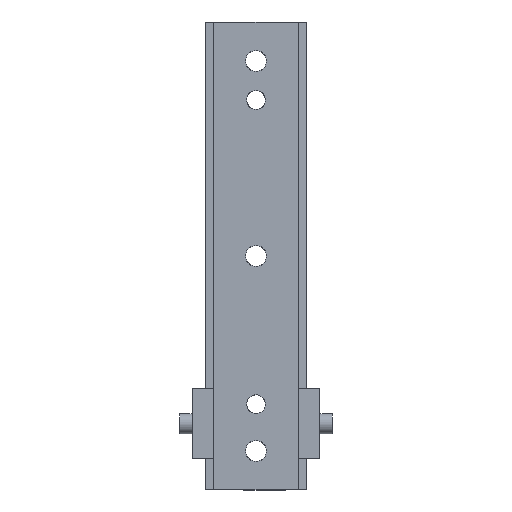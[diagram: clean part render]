
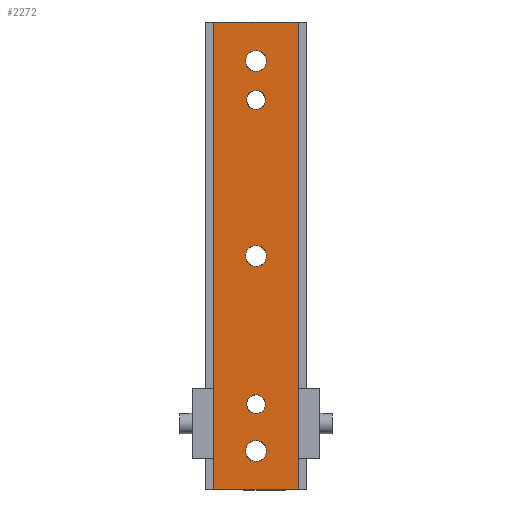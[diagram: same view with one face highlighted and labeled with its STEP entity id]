
A CAD part, front view. The second image highlights one B-rep face of the part: STEP entity #2272.
In plain terms, the highlighted planar face has unit normal (0, -1, 0).
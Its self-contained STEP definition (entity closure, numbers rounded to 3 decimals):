
#278=CARTESIAN_POINT('Vertex',(-4973.207,-575.36,0.)) ;
#281=CARTESIAN_POINT('Line Origine',(-5000.207,-575.36,0.)) ;
#285=CARTESIAN_POINT('Vertex',(-5027.207,-575.36,0.)) ;
#535=CARTESIAN_POINT('Vertex',(-5027.207,-575.36,300.)) ;
#538=CARTESIAN_POINT('Line Origine',(-5000.207,-575.36,300.)) ;
#542=CARTESIAN_POINT('Vertex',(-4973.207,-575.36,300.)) ;
#2065=CARTESIAN_POINT('Line Origine',(-4973.207,-575.36,150.)) ;
#2086=CARTESIAN_POINT('Axis2P3D Location',(-5027.207,-575.36,300.)) ;
#2091=CARTESIAN_POINT('Line Origine',(-5027.207,-575.36,150.)) ;
#2102=CARTESIAN_POINT('Axis2P3D Location',(-5000.207,-575.36,250.)) ;
#2106=CARTESIAN_POINT('Vertex',(-4994.207,-575.36,250.)) ;
#2108=CARTESIAN_POINT('Vertex',(-5000.207,-575.36,244.)) ;
#2111=CARTESIAN_POINT('Axis2P3D Location',(-5000.207,-575.36,250.)) ;
#2115=CARTESIAN_POINT('Vertex',(-5006.207,-575.36,250.)) ;
#2118=CARTESIAN_POINT('Axis2P3D Location',(-5000.207,-575.36,250.)) ;
#2122=CARTESIAN_POINT('Vertex',(-5000.207,-575.36,256.)) ;
#2125=CARTESIAN_POINT('Axis2P3D Location',(-5000.207,-575.36,250.)) ;
#2136=CARTESIAN_POINT('Axis2P3D Location',(-5000.207,-575.36,55.)) ;
#2140=CARTESIAN_POINT('Vertex',(-4994.207,-575.36,55.)) ;
#2142=CARTESIAN_POINT('Vertex',(-5000.207,-575.36,49.)) ;
#2145=CARTESIAN_POINT('Axis2P3D Location',(-5000.207,-575.36,55.)) ;
#2149=CARTESIAN_POINT('Vertex',(-5006.207,-575.36,55.)) ;
#2152=CARTESIAN_POINT('Axis2P3D Location',(-5000.207,-575.36,55.)) ;
#2156=CARTESIAN_POINT('Vertex',(-5000.207,-575.36,61.)) ;
#2159=CARTESIAN_POINT('Axis2P3D Location',(-5000.207,-575.36,55.)) ;
#2170=CARTESIAN_POINT('Axis2P3D Location',(-5000.207,-575.36,275.)) ;
#2174=CARTESIAN_POINT('Vertex',(-4993.457,-575.36,275.)) ;
#2176=CARTESIAN_POINT('Vertex',(-5000.207,-575.36,268.25)) ;
#2179=CARTESIAN_POINT('Axis2P3D Location',(-5000.207,-575.36,275.)) ;
#2183=CARTESIAN_POINT('Vertex',(-5006.957,-575.36,275.)) ;
#2186=CARTESIAN_POINT('Axis2P3D Location',(-5000.207,-575.36,275.)) ;
#2190=CARTESIAN_POINT('Vertex',(-5000.207,-575.36,281.75)) ;
#2193=CARTESIAN_POINT('Axis2P3D Location',(-5000.207,-575.36,275.)) ;
#2204=CARTESIAN_POINT('Axis2P3D Location',(-5000.207,-575.36,150.)) ;
#2208=CARTESIAN_POINT('Vertex',(-4993.457,-575.36,150.)) ;
#2210=CARTESIAN_POINT('Vertex',(-5000.207,-575.36,143.25)) ;
#2213=CARTESIAN_POINT('Axis2P3D Location',(-5000.207,-575.36,150.)) ;
#2217=CARTESIAN_POINT('Vertex',(-5006.957,-575.36,150.)) ;
#2220=CARTESIAN_POINT('Axis2P3D Location',(-5000.207,-575.36,150.)) ;
#2224=CARTESIAN_POINT('Vertex',(-5000.207,-575.36,156.75)) ;
#2227=CARTESIAN_POINT('Axis2P3D Location',(-5000.207,-575.36,150.)) ;
#2238=CARTESIAN_POINT('Axis2P3D Location',(-5000.207,-575.36,25.)) ;
#2242=CARTESIAN_POINT('Vertex',(-4993.457,-575.36,25.)) ;
#2244=CARTESIAN_POINT('Vertex',(-5000.207,-575.36,18.25)) ;
#2247=CARTESIAN_POINT('Axis2P3D Location',(-5000.207,-575.36,25.)) ;
#2251=CARTESIAN_POINT('Vertex',(-5006.957,-575.36,25.)) ;
#2254=CARTESIAN_POINT('Axis2P3D Location',(-5000.207,-575.36,25.)) ;
#2258=CARTESIAN_POINT('Vertex',(-5000.207,-575.36,31.75)) ;
#2261=CARTESIAN_POINT('Axis2P3D Location',(-5000.207,-575.36,25.)) ;
#282=DIRECTION('Vector Direction',(1.,0.,0.)) ;
#539=DIRECTION('Vector Direction',(1.,0.,0.)) ;
#2066=DIRECTION('Vector Direction',(0.,0.,-1.)) ;
#2087=DIRECTION('Axis2P3D Direction',(0.,1.,0.)) ;
#2088=DIRECTION('Axis2P3D XDirection',(0.,-0.,1.)) ;
#2092=DIRECTION('Vector Direction',(0.,0.,-1.)) ;
#2103=DIRECTION('Axis2P3D Direction',(0.,1.,0.)) ;
#2112=DIRECTION('Axis2P3D Direction',(0.,1.,0.)) ;
#2119=DIRECTION('Axis2P3D Direction',(0.,1.,0.)) ;
#2126=DIRECTION('Axis2P3D Direction',(0.,1.,0.)) ;
#2137=DIRECTION('Axis2P3D Direction',(0.,1.,0.)) ;
#2146=DIRECTION('Axis2P3D Direction',(0.,1.,0.)) ;
#2153=DIRECTION('Axis2P3D Direction',(0.,1.,0.)) ;
#2160=DIRECTION('Axis2P3D Direction',(0.,1.,0.)) ;
#2171=DIRECTION('Axis2P3D Direction',(0.,1.,0.)) ;
#2180=DIRECTION('Axis2P3D Direction',(0.,1.,0.)) ;
#2187=DIRECTION('Axis2P3D Direction',(0.,1.,0.)) ;
#2194=DIRECTION('Axis2P3D Direction',(0.,1.,0.)) ;
#2205=DIRECTION('Axis2P3D Direction',(0.,1.,0.)) ;
#2214=DIRECTION('Axis2P3D Direction',(0.,1.,0.)) ;
#2221=DIRECTION('Axis2P3D Direction',(0.,1.,0.)) ;
#2228=DIRECTION('Axis2P3D Direction',(0.,1.,0.)) ;
#2239=DIRECTION('Axis2P3D Direction',(0.,1.,0.)) ;
#2248=DIRECTION('Axis2P3D Direction',(0.,1.,0.)) ;
#2255=DIRECTION('Axis2P3D Direction',(0.,1.,0.)) ;
#2262=DIRECTION('Axis2P3D Direction',(0.,1.,0.)) ;
#2089=AXIS2_PLACEMENT_3D('Plane Axis2P3D',#2086,#2087,#2088) ;
#2104=AXIS2_PLACEMENT_3D('Circle Axis2P3D',#2102,#2103,$) ;
#2113=AXIS2_PLACEMENT_3D('Circle Axis2P3D',#2111,#2112,$) ;
#2120=AXIS2_PLACEMENT_3D('Circle Axis2P3D',#2118,#2119,$) ;
#2127=AXIS2_PLACEMENT_3D('Circle Axis2P3D',#2125,#2126,$) ;
#2138=AXIS2_PLACEMENT_3D('Circle Axis2P3D',#2136,#2137,$) ;
#2147=AXIS2_PLACEMENT_3D('Circle Axis2P3D',#2145,#2146,$) ;
#2154=AXIS2_PLACEMENT_3D('Circle Axis2P3D',#2152,#2153,$) ;
#2161=AXIS2_PLACEMENT_3D('Circle Axis2P3D',#2159,#2160,$) ;
#2172=AXIS2_PLACEMENT_3D('Circle Axis2P3D',#2170,#2171,$) ;
#2181=AXIS2_PLACEMENT_3D('Circle Axis2P3D',#2179,#2180,$) ;
#2188=AXIS2_PLACEMENT_3D('Circle Axis2P3D',#2186,#2187,$) ;
#2195=AXIS2_PLACEMENT_3D('Circle Axis2P3D',#2193,#2194,$) ;
#2206=AXIS2_PLACEMENT_3D('Circle Axis2P3D',#2204,#2205,$) ;
#2215=AXIS2_PLACEMENT_3D('Circle Axis2P3D',#2213,#2214,$) ;
#2222=AXIS2_PLACEMENT_3D('Circle Axis2P3D',#2220,#2221,$) ;
#2229=AXIS2_PLACEMENT_3D('Circle Axis2P3D',#2227,#2228,$) ;
#2240=AXIS2_PLACEMENT_3D('Circle Axis2P3D',#2238,#2239,$) ;
#2249=AXIS2_PLACEMENT_3D('Circle Axis2P3D',#2247,#2248,$) ;
#2256=AXIS2_PLACEMENT_3D('Circle Axis2P3D',#2254,#2255,$) ;
#2263=AXIS2_PLACEMENT_3D('Circle Axis2P3D',#2261,#2262,$) ;
#2097=ORIENTED_EDGE('',*,*,#287,.T.) ;
#2098=ORIENTED_EDGE('',*,*,#2069,.F.) ;
#2099=ORIENTED_EDGE('',*,*,#544,.F.) ;
#2100=ORIENTED_EDGE('',*,*,#2095,.T.) ;
#2131=ORIENTED_EDGE('',*,*,#2110,.T.) ;
#2132=ORIENTED_EDGE('',*,*,#2117,.T.) ;
#2133=ORIENTED_EDGE('',*,*,#2124,.T.) ;
#2134=ORIENTED_EDGE('',*,*,#2129,.T.) ;
#2165=ORIENTED_EDGE('',*,*,#2144,.T.) ;
#2166=ORIENTED_EDGE('',*,*,#2151,.T.) ;
#2167=ORIENTED_EDGE('',*,*,#2158,.T.) ;
#2168=ORIENTED_EDGE('',*,*,#2163,.T.) ;
#2199=ORIENTED_EDGE('',*,*,#2178,.T.) ;
#2200=ORIENTED_EDGE('',*,*,#2185,.T.) ;
#2201=ORIENTED_EDGE('',*,*,#2192,.T.) ;
#2202=ORIENTED_EDGE('',*,*,#2197,.T.) ;
#2233=ORIENTED_EDGE('',*,*,#2212,.T.) ;
#2234=ORIENTED_EDGE('',*,*,#2219,.T.) ;
#2235=ORIENTED_EDGE('',*,*,#2226,.T.) ;
#2236=ORIENTED_EDGE('',*,*,#2231,.T.) ;
#2267=ORIENTED_EDGE('',*,*,#2246,.T.) ;
#2268=ORIENTED_EDGE('',*,*,#2253,.T.) ;
#2269=ORIENTED_EDGE('',*,*,#2260,.T.) ;
#2270=ORIENTED_EDGE('',*,*,#2265,.T.) ;
#2135=FACE_BOUND('',#2130,.T.) ;
#2169=FACE_BOUND('',#2164,.T.) ;
#2203=FACE_BOUND('',#2198,.T.) ;
#2237=FACE_BOUND('',#2232,.T.) ;
#2271=FACE_BOUND('',#2266,.T.) ;
#283=VECTOR('Line Direction',#282,1.) ;
#540=VECTOR('Line Direction',#539,1.) ;
#2067=VECTOR('Line Direction',#2066,1.) ;
#2093=VECTOR('Line Direction',#2092,1.) ;
#2272=ADVANCED_FACE('A945-01-630-01-S-BC',(#2101,#2135,#2169,#2203,#2237,#2271),#2090,.F.) ;
#2105=CIRCLE('generated circle',#2104,6.) ;
#2114=CIRCLE('generated circle',#2113,6.) ;
#2121=CIRCLE('generated circle',#2120,6.) ;
#2128=CIRCLE('generated circle',#2127,6.) ;
#2139=CIRCLE('generated circle',#2138,6.) ;
#2148=CIRCLE('generated circle',#2147,6.) ;
#2155=CIRCLE('generated circle',#2154,6.) ;
#2162=CIRCLE('generated circle',#2161,6.) ;
#2173=CIRCLE('generated circle',#2172,6.75) ;
#2182=CIRCLE('generated circle',#2181,6.75) ;
#2189=CIRCLE('generated circle',#2188,6.75) ;
#2196=CIRCLE('generated circle',#2195,6.75) ;
#2207=CIRCLE('generated circle',#2206,6.75) ;
#2216=CIRCLE('generated circle',#2215,6.75) ;
#2223=CIRCLE('generated circle',#2222,6.75) ;
#2230=CIRCLE('generated circle',#2229,6.75) ;
#2241=CIRCLE('generated circle',#2240,6.75) ;
#2250=CIRCLE('generated circle',#2249,6.75) ;
#2257=CIRCLE('generated circle',#2256,6.75) ;
#2264=CIRCLE('generated circle',#2263,6.75) ;
#287=EDGE_CURVE('',#286,#279,#284,.T.) ;
#544=EDGE_CURVE('',#536,#543,#541,.T.) ;
#2069=EDGE_CURVE('',#543,#279,#2068,.T.) ;
#2095=EDGE_CURVE('',#536,#286,#2094,.T.) ;
#2110=EDGE_CURVE('',#2107,#2109,#2105,.T.) ;
#2117=EDGE_CURVE('',#2109,#2116,#2114,.T.) ;
#2124=EDGE_CURVE('',#2116,#2123,#2121,.T.) ;
#2129=EDGE_CURVE('',#2123,#2107,#2128,.T.) ;
#2144=EDGE_CURVE('',#2141,#2143,#2139,.T.) ;
#2151=EDGE_CURVE('',#2143,#2150,#2148,.T.) ;
#2158=EDGE_CURVE('',#2150,#2157,#2155,.T.) ;
#2163=EDGE_CURVE('',#2157,#2141,#2162,.T.) ;
#2178=EDGE_CURVE('',#2175,#2177,#2173,.T.) ;
#2185=EDGE_CURVE('',#2177,#2184,#2182,.T.) ;
#2192=EDGE_CURVE('',#2184,#2191,#2189,.T.) ;
#2197=EDGE_CURVE('',#2191,#2175,#2196,.T.) ;
#2212=EDGE_CURVE('',#2209,#2211,#2207,.T.) ;
#2219=EDGE_CURVE('',#2211,#2218,#2216,.T.) ;
#2226=EDGE_CURVE('',#2218,#2225,#2223,.T.) ;
#2231=EDGE_CURVE('',#2225,#2209,#2230,.T.) ;
#2246=EDGE_CURVE('',#2243,#2245,#2241,.T.) ;
#2253=EDGE_CURVE('',#2245,#2252,#2250,.T.) ;
#2260=EDGE_CURVE('',#2252,#2259,#2257,.T.) ;
#2265=EDGE_CURVE('',#2259,#2243,#2264,.T.) ;
#2096=EDGE_LOOP('',(#2097,#2098,#2099,#2100)) ;
#2130=EDGE_LOOP('',(#2131,#2132,#2133,#2134)) ;
#2164=EDGE_LOOP('',(#2165,#2166,#2167,#2168)) ;
#2198=EDGE_LOOP('',(#2199,#2200,#2201,#2202)) ;
#2232=EDGE_LOOP('',(#2233,#2234,#2235,#2236)) ;
#2266=EDGE_LOOP('',(#2267,#2268,#2269,#2270)) ;
#2101=FACE_OUTER_BOUND('',#2096,.T.) ;
#284=LINE('Line',#281,#283) ;
#541=LINE('Line',#538,#540) ;
#2068=LINE('Line',#2065,#2067) ;
#2094=LINE('Line',#2091,#2093) ;
#2090=PLANE('Plane',#2089) ;
#279=VERTEX_POINT('',#278) ;
#286=VERTEX_POINT('',#285) ;
#536=VERTEX_POINT('',#535) ;
#543=VERTEX_POINT('',#542) ;
#2107=VERTEX_POINT('',#2106) ;
#2109=VERTEX_POINT('',#2108) ;
#2116=VERTEX_POINT('',#2115) ;
#2123=VERTEX_POINT('',#2122) ;
#2141=VERTEX_POINT('',#2140) ;
#2143=VERTEX_POINT('',#2142) ;
#2150=VERTEX_POINT('',#2149) ;
#2157=VERTEX_POINT('',#2156) ;
#2175=VERTEX_POINT('',#2174) ;
#2177=VERTEX_POINT('',#2176) ;
#2184=VERTEX_POINT('',#2183) ;
#2191=VERTEX_POINT('',#2190) ;
#2209=VERTEX_POINT('',#2208) ;
#2211=VERTEX_POINT('',#2210) ;
#2218=VERTEX_POINT('',#2217) ;
#2225=VERTEX_POINT('',#2224) ;
#2243=VERTEX_POINT('',#2242) ;
#2245=VERTEX_POINT('',#2244) ;
#2252=VERTEX_POINT('',#2251) ;
#2259=VERTEX_POINT('',#2258) ;
